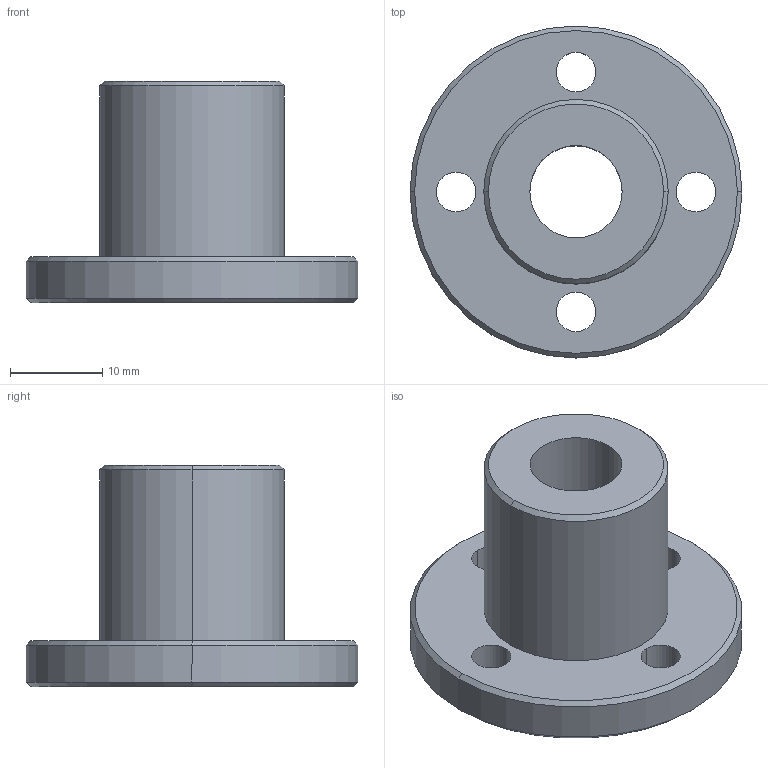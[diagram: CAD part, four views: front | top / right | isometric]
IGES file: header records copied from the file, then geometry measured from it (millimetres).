
Start section: 3D InterOp IGES (Version 21 0 1), Spatial Corp. Copyright (c) 1999-2007.
Global section: file name: TMFON-10R.igs; native system: Spatial Corp.; preprocessor: 3D InterOp GENERIC/IGES 3.0; author: Noname; organization: Noname; date: 20220208.144837; units: millimetre
Bounding box: 36 x 36 x 24 mm (x, y, z)
Surface area: 4460.3 mm2 (no closed solid volume)
Topology: 0 solids, 0 shells, 23 faces, 108 edges, 108 vertices
Faces by surface type: revolution 20, extrusion 3
